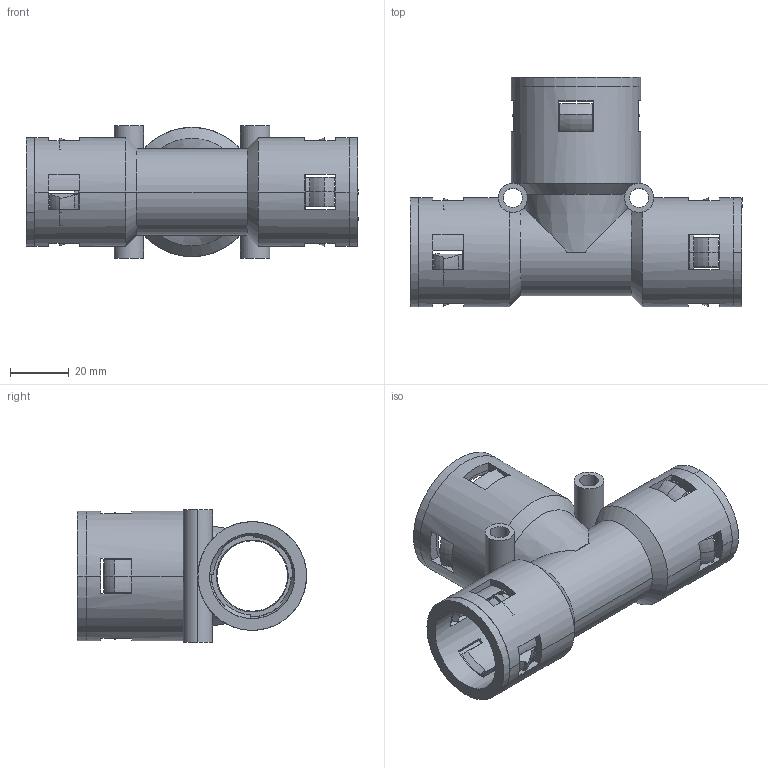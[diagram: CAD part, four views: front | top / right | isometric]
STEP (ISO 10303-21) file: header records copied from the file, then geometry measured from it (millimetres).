
FILE_DESCRIPTION (( 'STEP AP203' ), '1' );
FILE_NAME ('WQT-PA AD34.5 2X28.5.STEP', '2013-11-11T02:56:47', ( 'User' ), ( 'Microsoft' ), 'SwSTEP 2.0', 'SolidWorks 2010', '' );
FILE_SCHEMA (( 'CONFIG_CONTROL_DESIGN' ));
Length unit declared in the file: millimetre
Products named in the file (6): NSK-AD34.5; GFD-AD28.5; WQT-PA AD34.5 2X28.5; WQT-AD34.5-2X28.5-01; GFD-AD34.5; NSK-AD28.5
Assembly tree (7 placements, depth 2):
  WQT-PA AD34.5 2X28.5
    NSK-AD34.5
    NSK-AD28.5  x2
    GFD-AD34.5
    WQT-AD34.5-2X28.5-01
    GFD-AD28.5  x2
Bounding box: 113 x 78 x 45 mm (x, y, z)
Volume: 61889.2 mm3; surface area: 60704.2 mm2
Topology: 7 solids, 7 shells, 525 faces, 1431 edges, 895 vertices
Faces by surface type: plane 225, cone 135, cylinder 84, torus 81
Entity records: 14559 total; most frequent: CARTESIAN_POINT 3324, DIRECTION 2337, ORIENTED_EDGE 2214, EDGE_CURVE 1107, AXIS2_PLACEMENT_3D 926, VERTEX_POINT 693, CIRCLE 515, VECTOR 485
